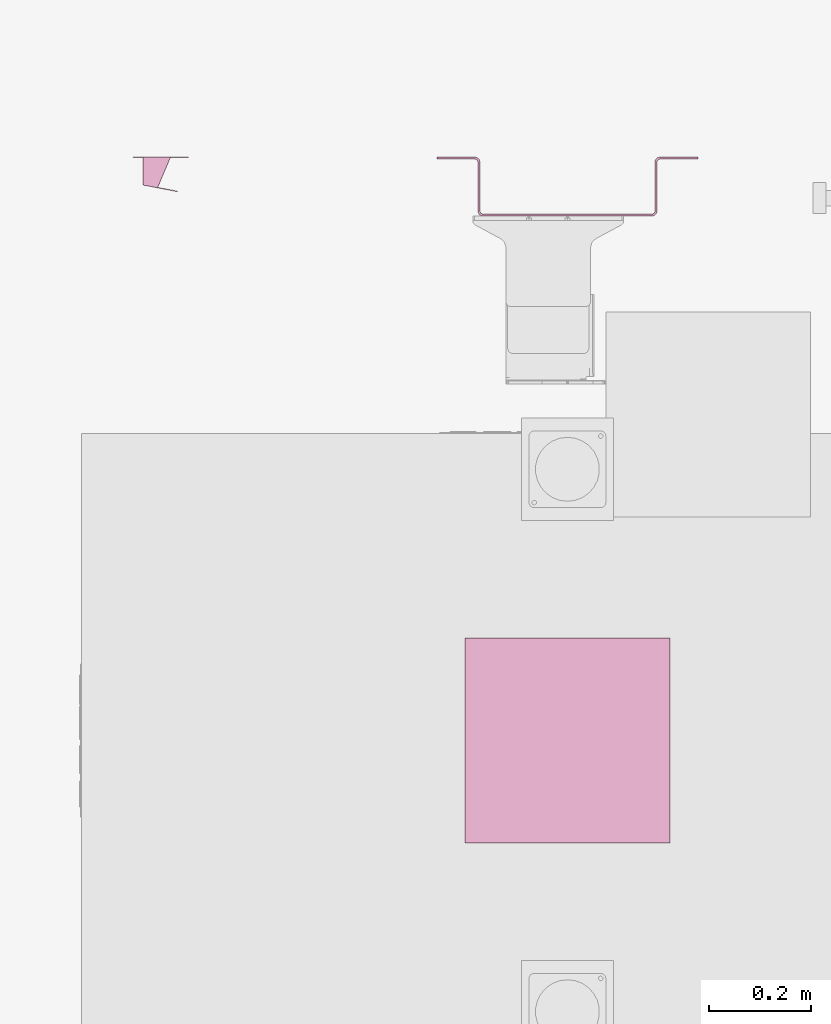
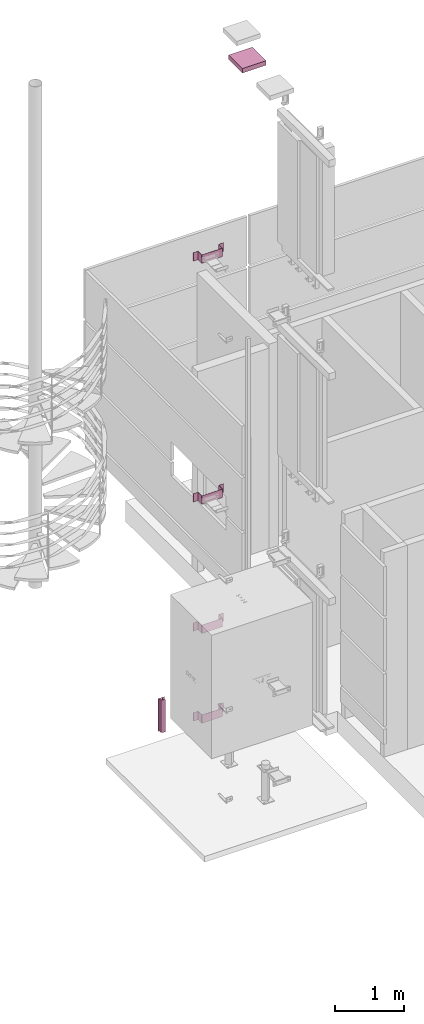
# One storey, part 14 of 15: 6 transport elements.
"""IFC2X3 building model written with IfcOpenShell, lengths in millimetres."""

from ifc_helpers import new_model, entity, si_unit, converted_unit, derived_unit, direction, frame, frame_2d, origin, place, context, subcontext, project, spatial, polyline, circle_curve, parameter, trimmed, segment, composite_curve, outline, extrude, faceted_brep, source, transform, mapped, material, material_list, type_object, type_shapes, element, save


model = new_model("IFC2X3")

# Units and contexts
model_context = context("Model", 3, precision=0.01, world=origin(), true_north=direction((6.12303176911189e-17, 1.0)))
body_context = subcontext(model_context, "Body", "Model", "MODEL_VIEW")
ifc_project = project(units=[si_unit("LENGTHUNIT", "METRE", prefix="MILLI"), si_unit("AREAUNIT", "SQUARE_METRE"), si_unit("VOLUMEUNIT", "CUBIC_METRE"), converted_unit("PLANEANGLEUNIT", "DEGREE", entity("IfcRatioMeasure", 0.0174532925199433), si_unit("PLANEANGLEUNIT", "RADIAN"), dimensions=[0, 0, 0, 0, 0, 0, 0]), si_unit("MASSUNIT", "GRAM", prefix="KILO"), derived_unit("MASSDENSITYUNIT", [(si_unit("MASSUNIT", "GRAM", prefix="KILO"), 1), (si_unit("LENGTHUNIT", "METRE"), -3)]), si_unit("TIMEUNIT", "SECOND"), si_unit("FREQUENCYUNIT", "HERTZ"), si_unit("THERMODYNAMICTEMPERATUREUNIT", "DEGREE_CELSIUS"), derived_unit("THERMALTRANSMITTANCEUNIT", [(si_unit("MASSUNIT", "GRAM", prefix="KILO"), 1), (si_unit("THERMODYNAMICTEMPERATUREUNIT", "KELVIN"), -1), (si_unit("TIMEUNIT", "SECOND"), -3)]), derived_unit("VOLUMETRICFLOWRATEUNIT", [(si_unit("LENGTHUNIT", "METRE"), 3), (si_unit("TIMEUNIT", "SECOND"), -1)]), si_unit("ELECTRICCURRENTUNIT", "AMPERE"), si_unit("ELECTRICVOLTAGEUNIT", "VOLT"), si_unit("POWERUNIT", "WATT"), si_unit("FORCEUNIT", "NEWTON", prefix="KILO"), si_unit("ILLUMINANCEUNIT", "LUX"), si_unit("LUMINOUSFLUXUNIT", "LUMEN"), si_unit("LUMINOUSINTENSITYUNIT", "CANDELA"), derived_unit("USERDEFINED", [(si_unit("MASSUNIT", "GRAM", prefix="KILO"), -1), (si_unit("LENGTHUNIT", "METRE"), -2), (si_unit("TIMEUNIT", "SECOND"), 3), (si_unit("LUMINOUSFLUXUNIT", "LUMEN"), 1)]), derived_unit("LINEARVELOCITYUNIT", [(si_unit("LENGTHUNIT", "METRE"), 1), (si_unit("TIMEUNIT", "SECOND"), -1)]), si_unit("PRESSUREUNIT", "PASCAL"), derived_unit("USERDEFINED", [(si_unit("LENGTHUNIT", "METRE"), -2), (si_unit("MASSUNIT", "GRAM", prefix="KILO"), 1), (si_unit("TIMEUNIT", "SECOND"), -2)])], contexts=[model_context])

# Site, building, storey
site_placement = place(None, frame((-151.875543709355, 2715.0, 0.0)))
site = spatial("IfcSite", under=ifc_project, at=site_placement, Name="Surface", CompositionType="ELEMENT")
building_placement = place(site_placement, origin())
building = spatial("IfcBuilding", under=site, at=building_placement, CompositionType="ELEMENT")
storey_placement = place(building_placement, frame((0.0, 0.0, -135.0)))
storey = spatial("IfcBuildingStorey", under=building, at=storey_placement, Name="uus 1 korrus", CompositionType="ELEMENT", Elevation=-134.99999999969)

# Transport elements
ifc_material_1 = material(Name="Site specified")
transport_element_type_1 = type_object("IfcTransportElementType", Name="KONE_Shaft_Light", material=ifc_material_1)
shared_shape_1 = source(origin(), body_context, "Body", "SweptSolid", [
    extrude(outline(polyline([(-54.9929194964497, -25.1750137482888), (53.0070805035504, -25.1750137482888), (53.0070805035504, -24.1750137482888), (18.0070805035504, -24.1750137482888), (-6.65036389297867, 33.9142849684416), (32.1937198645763, 41.4648099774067), (32.0070805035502, 42.4249862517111), (-35.7929194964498, 29.2460012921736), (-35.7929194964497, -24.1750137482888), (-54.9929194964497, -24.1750137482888), (-54.9929194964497, -25.1750137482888)])), frame((-160.631399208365, 19.0986245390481, -25.175013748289), z_axis=(1.0, 0.0, 0.0), x_axis=(0.0, -1.0, 0.0)), (0.0, 0.0, 1.0), 580.0),
])
type_shapes(transport_element_type_1, [shared_shape_1])
transport_element_1_placement = place(storey_placement, frame((29981.7093111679, 21740.0, -180.631399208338), z_axis=(0.0, 1.0, 0.0), x_axis=(0.0, 0.0, -1.0)))
element("IfcTransportElement", 1, at=transport_element_1_placement, inside=storey, type_object=transport_element_type_1, material=ifc_material_1, Name="KONE_Shaft_Light:KONE_Shaft_Light", ObjectType="KONE_Shaft_Light", CapacityByNumber=0.0, CapacityByWeight=0.0, OperationType="ELEVATOR", context=body_context, shape_type="MappedRepresentation", body=[
    mapped(shared_shape_1, transform((0.0, 0.0, 0.0), scale=1.0)),
])
ifc_material_2 = material(Name="Generic")
transport_element_type_2 = type_object("IfcTransportElementType", Name="KONE_Car_Bracket_Extension_KM755828G01_L115", material=ifc_material_2)
shared_shape_2 = source(origin(), body_context, "Body", "SweptSolid", [
    extrude(outline(composite_curve([segment(polyline([(-42.4000000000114, 181.0), (-42.4000000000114, 255.0)]), True, "CONTINUOUS"), segment(polyline([(-42.4000000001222, 255.0), (-46.4000000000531, 255.0)]), True, "CONTINUOUS"), segment(polyline([(-46.3999999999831, 255.0), (-46.3999999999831, 181.0)]), True, "CONTINUOUS"), segment(trimmed(circle_curve(frame_2d((-36.3999999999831, 181.0), x_axis=(-1.0, 0.0)), 10.0), [parameter(0.0)], [parameter(90.0000000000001)], True, "PARAMETER"), True, "CONTINUOUS"), segment(polyline([(-36.3999999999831, 171.0), (58.5999999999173, 171.0)]), True, "CONTINUOUS"), segment(trimmed(circle_curve(frame_2d((58.5999999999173, 165.0), x_axis=(-1.0, 0.0)), 6.0), [parameter(180.0)], [parameter(269.999999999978)], True, "PARAMETER"), False, "CONTINUOUS"), segment(polyline([(64.5999999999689, 165.0), (64.599999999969, -165.0)]), True, "CONTINUOUS"), segment(trimmed(circle_curve(frame_2d((58.5999999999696, -165.0), x_axis=(0.0, 1.0)), 6.0), [parameter(180.0)], [parameter(270.000000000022)], True, "PARAMETER"), False, "CONTINUOUS"), segment(polyline([(58.5999999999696, -171.0), (-36.3999999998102, -171.0)]), True, "CONTINUOUS"), segment(trimmed(circle_curve(frame_2d((-36.3999999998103, -181.0), x_axis=(0.0, 1.0)), 10.0), [parameter(0.0)], [parameter(90.0000000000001)], True, "PARAMETER"), True, "CONTINUOUS"), segment(polyline([(-46.3999999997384, -181.0), (-46.3999999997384, -255.0)]), True, "CONTINUOUS"), segment(polyline([(-46.3999999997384, -255.0), (-42.3999999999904, -255.0)]), True, "CONTINUOUS"), segment(polyline([(-42.4000000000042, -255.0), (-42.4000000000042, -181.0)]), True, "CONTINUOUS"), segment(trimmed(circle_curve(frame_2d((-36.4000000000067, -181.0), x_axis=(0.0, -1.0)), 6.0), [parameter(180.0)], [parameter(270.0)], True, "PARAMETER"), False, "CONTINUOUS"), segment(polyline([(-36.4000000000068, -175.0), (58.5999999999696, -175.0)]), True, "CONTINUOUS"), segment(trimmed(circle_curve(frame_2d((58.5999999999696, -165.0), x_axis=(0.0, -1.0)), 10.0), [parameter(0.0)], [parameter(90.0000000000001)], True, "PARAMETER"), True, "CONTINUOUS"), segment(polyline([(68.5999999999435, -165.0), (68.5999999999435, 165.0)]), True, "CONTINUOUS"), segment(trimmed(circle_curve(frame_2d((58.5999999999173, 165.0), x_axis=(1.0, 0.0)), 10.0), [parameter(0.0)], [parameter(90.0000000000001)], True, "PARAMETER"), True, "CONTINUOUS"), segment(polyline([(58.5999999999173, 175.0), (-36.4000000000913, 175.0)]), True, "CONTINUOUS"), segment(trimmed(circle_curve(frame_2d((-36.4000000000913, 181.0), x_axis=(1.0, 0.0)), 6.0), [parameter(180.0)], [parameter(270.0)], True, "PARAMETER"), False, "CONTINUOUS")], self_intersect=False)), frame((148.391689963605, -34.4186219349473, -46.4000000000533), z_axis=(0.0, -1.0, 0.0), x_axis=(0.0, 0.0, -1.0)), (0.0, 0.0, -1.0), 150.0),
])
type_shapes(transport_element_type_2, [shared_shape_2])
transport_element_2_placement = place(storey_placement, frame((30608.2260771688, 21740.0, -510.418604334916), z_axis=(0.0, 1.0, 0.0), x_axis=(1.0, 0.0, 0.0)))
element("IfcTransportElement", 2, at=transport_element_2_placement, inside=storey, type_object=transport_element_type_2, material=ifc_material_2, Name="KONE_Car_Bracket_Extension_KM755828G01_L115:KONE_Car_Bracket_Extension_KM755828G01_L115", ObjectType="KONE_Car_Bracket_Extension_KM755828G01_L115", CapacityByNumber=0.0, CapacityByWeight=0.0, OperationType="ELEVATOR", context=body_context, shape_type="MappedRepresentation", body=[
    mapped(shared_shape_2, transform((0.0, 0.0, 0.0), scale=1.0)),
])

# Space
space_placement = place(storey_placement, origin())
space = spatial("IfcSpace", under=storey, at=space_placement, Name="132a", CompositionType="ELEMENT", InteriorOrExteriorSpace="INTERNAL")

# Transport elements
transport_element_type_3 = type_object("IfcTransportElementType", Name="KONE_Car_Bracket_Extension_KM755828G01_L115", material=ifc_material_2)
shared_shape_3 = source(origin(), body_context, "Body", "SweptSolid", [
    extrude(outline(composite_curve([segment(polyline([(-42.4000000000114, 181.0), (-42.4000000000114, 255.0)]), True, "CONTINUOUS"), segment(polyline([(-42.4000000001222, 255.0), (-46.4000000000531, 255.0)]), True, "CONTINUOUS"), segment(polyline([(-46.3999999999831, 255.0), (-46.3999999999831, 181.0)]), True, "CONTINUOUS"), segment(trimmed(circle_curve(frame_2d((-36.3999999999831, 181.0), x_axis=(-1.0, 0.0)), 10.0), [parameter(0.0)], [parameter(90.0000000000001)], True, "PARAMETER"), True, "CONTINUOUS"), segment(polyline([(-36.3999999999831, 171.0), (58.5999999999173, 171.0)]), True, "CONTINUOUS"), segment(trimmed(circle_curve(frame_2d((58.5999999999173, 165.0), x_axis=(-1.0, 0.0)), 6.0), [parameter(180.0)], [parameter(269.999999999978)], True, "PARAMETER"), False, "CONTINUOUS"), segment(polyline([(64.5999999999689, 165.0), (64.599999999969, -165.0)]), True, "CONTINUOUS"), segment(trimmed(circle_curve(frame_2d((58.5999999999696, -165.0), x_axis=(0.0, 1.0)), 6.0), [parameter(180.0)], [parameter(270.000000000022)], True, "PARAMETER"), False, "CONTINUOUS"), segment(polyline([(58.5999999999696, -171.0), (-36.3999999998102, -171.0)]), True, "CONTINUOUS"), segment(trimmed(circle_curve(frame_2d((-36.3999999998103, -181.0), x_axis=(0.0, 1.0)), 10.0), [parameter(0.0)], [parameter(90.0000000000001)], True, "PARAMETER"), True, "CONTINUOUS"), segment(polyline([(-46.3999999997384, -181.0), (-46.3999999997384, -255.0)]), True, "CONTINUOUS"), segment(polyline([(-46.3999999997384, -255.0), (-42.3999999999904, -255.0)]), True, "CONTINUOUS"), segment(polyline([(-42.4000000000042, -255.0), (-42.4000000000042, -181.0)]), True, "CONTINUOUS"), segment(trimmed(circle_curve(frame_2d((-36.4000000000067, -181.0), x_axis=(0.0, -1.0)), 6.0), [parameter(180.0)], [parameter(270.0)], True, "PARAMETER"), False, "CONTINUOUS"), segment(polyline([(-36.4000000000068, -175.0), (58.5999999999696, -175.0)]), True, "CONTINUOUS"), segment(trimmed(circle_curve(frame_2d((58.5999999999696, -165.0), x_axis=(0.0, -1.0)), 10.0), [parameter(0.0)], [parameter(90.0000000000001)], True, "PARAMETER"), True, "CONTINUOUS"), segment(polyline([(68.5999999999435, -165.0), (68.5999999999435, 165.0)]), True, "CONTINUOUS"), segment(trimmed(circle_curve(frame_2d((58.5999999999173, 165.0), x_axis=(1.0, 0.0)), 10.0), [parameter(0.0)], [parameter(90.0000000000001)], True, "PARAMETER"), True, "CONTINUOUS"), segment(polyline([(58.5999999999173, 175.0), (-36.4000000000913, 175.0)]), True, "CONTINUOUS"), segment(trimmed(circle_curve(frame_2d((-36.4000000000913, 181.0), x_axis=(1.0, 0.0)), 6.0), [parameter(180.0)], [parameter(270.0)], True, "PARAMETER"), False, "CONTINUOUS")], self_intersect=False)), frame((148.391689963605, -34.4186219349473, -46.4000000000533), z_axis=(0.0, -1.0, 0.0), x_axis=(0.0, 0.0, -1.0)), (0.0, 0.0, -1.0), 150.0),
])
type_shapes(transport_element_type_3, [shared_shape_3])
transport_element_3_placement = place(space_placement, frame((30608.2260771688, 21740.0, 1089.58144686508), z_axis=(0.0, 1.0, 0.0), x_axis=(1.0, 0.0, 0.0)))
element("IfcTransportElement", 3, at=transport_element_3_placement, inside=space, type_object=transport_element_type_3, material=ifc_material_2, Name="KONE_Car_Bracket_Extension_KM755828G01_L115:KONE_Car_Bracket_Extension_KM755828G01_L115", ObjectType="KONE_Car_Bracket_Extension_KM755828G01_L115", CapacityByNumber=0.0, CapacityByWeight=0.0, OperationType="ELEVATOR", context=body_context, shape_type="MappedRepresentation", body=[
    mapped(shared_shape_3, transform((0.0, 0.0, 0.0), scale=1.0)),
])
transport_element_type_4 = type_object("IfcTransportElementType", Name="KONE_Car_Bracket_Extension_KM755828G01_L115", material=ifc_material_2)
shared_shape_4 = source(origin(), body_context, "Body", "SweptSolid", [
    extrude(outline(composite_curve([segment(polyline([(-42.4000000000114, 181.0), (-42.4000000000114, 255.0)]), True, "CONTINUOUS"), segment(polyline([(-42.4000000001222, 255.0), (-46.4000000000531, 255.0)]), True, "CONTINUOUS"), segment(polyline([(-46.3999999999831, 255.0), (-46.3999999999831, 181.0)]), True, "CONTINUOUS"), segment(trimmed(circle_curve(frame_2d((-36.3999999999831, 181.0), x_axis=(-1.0, 0.0)), 10.0), [parameter(0.0)], [parameter(90.0000000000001)], True, "PARAMETER"), True, "CONTINUOUS"), segment(polyline([(-36.3999999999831, 171.0), (58.5999999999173, 171.0)]), True, "CONTINUOUS"), segment(trimmed(circle_curve(frame_2d((58.5999999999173, 165.0), x_axis=(-1.0, 0.0)), 6.0), [parameter(180.0)], [parameter(269.999999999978)], True, "PARAMETER"), False, "CONTINUOUS"), segment(polyline([(64.5999999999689, 165.0), (64.599999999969, -165.0)]), True, "CONTINUOUS"), segment(trimmed(circle_curve(frame_2d((58.5999999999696, -165.0), x_axis=(0.0, 1.0)), 6.0), [parameter(180.0)], [parameter(270.000000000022)], True, "PARAMETER"), False, "CONTINUOUS"), segment(polyline([(58.5999999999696, -171.0), (-36.3999999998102, -171.0)]), True, "CONTINUOUS"), segment(trimmed(circle_curve(frame_2d((-36.3999999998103, -181.0), x_axis=(0.0, 1.0)), 10.0), [parameter(0.0)], [parameter(90.0000000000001)], True, "PARAMETER"), True, "CONTINUOUS"), segment(polyline([(-46.3999999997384, -181.0), (-46.3999999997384, -255.0)]), True, "CONTINUOUS"), segment(polyline([(-46.3999999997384, -255.0), (-42.3999999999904, -255.0)]), True, "CONTINUOUS"), segment(polyline([(-42.4000000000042, -255.0), (-42.4000000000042, -181.0)]), True, "CONTINUOUS"), segment(trimmed(circle_curve(frame_2d((-36.4000000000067, -181.0), x_axis=(0.0, -1.0)), 6.0), [parameter(180.0)], [parameter(270.0)], True, "PARAMETER"), False, "CONTINUOUS"), segment(polyline([(-36.4000000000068, -175.0), (58.5999999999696, -175.0)]), True, "CONTINUOUS"), segment(trimmed(circle_curve(frame_2d((58.5999999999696, -165.0), x_axis=(0.0, -1.0)), 10.0), [parameter(0.0)], [parameter(90.0000000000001)], True, "PARAMETER"), True, "CONTINUOUS"), segment(polyline([(68.5999999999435, -165.0), (68.5999999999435, 165.0)]), True, "CONTINUOUS"), segment(trimmed(circle_curve(frame_2d((58.5999999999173, 165.0), x_axis=(1.0, 0.0)), 10.0), [parameter(0.0)], [parameter(90.0000000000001)], True, "PARAMETER"), True, "CONTINUOUS"), segment(polyline([(58.5999999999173, 175.0), (-36.4000000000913, 175.0)]), True, "CONTINUOUS"), segment(trimmed(circle_curve(frame_2d((-36.4000000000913, 181.0), x_axis=(1.0, 0.0)), 6.0), [parameter(180.0)], [parameter(270.0)], True, "PARAMETER"), False, "CONTINUOUS")], self_intersect=False)), frame((148.391689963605, -34.4186219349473, -46.4000000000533), z_axis=(0.0, -1.0, 0.0), x_axis=(0.0, 0.0, -1.0)), (0.0, 0.0, -1.0), 150.0),
])
type_shapes(transport_element_type_4, [shared_shape_4])
transport_element_4_placement = place(storey_placement, frame((30608.2260771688, 21740.0, 3389.58152046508), z_axis=(0.0, 1.0, 0.0), x_axis=(1.0, 0.0, 0.0)))
element("IfcTransportElement", 4, at=transport_element_4_placement, inside=storey, type_object=transport_element_type_4, material=ifc_material_2, Name="KONE_Car_Bracket_Extension_KM755828G01_L115:KONE_Car_Bracket_Extension_KM755828G01_L115", ObjectType="KONE_Car_Bracket_Extension_KM755828G01_L115", CapacityByNumber=0.0, CapacityByWeight=0.0, OperationType="ELEVATOR", context=body_context, shape_type="MappedRepresentation", body=[
    mapped(shared_shape_4, transform((0.0, 0.0, 0.0), scale=1.0)),
])
transport_element_type_5 = type_object("IfcTransportElementType", Name="KONE_Car_Bracket_Extension_KM755828G01_L115", material=ifc_material_2)
shared_shape_5 = source(origin(), body_context, "Body", "SweptSolid", [
    extrude(outline(composite_curve([segment(polyline([(-42.4000000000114, 181.0), (-42.4000000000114, 255.0)]), True, "CONTINUOUS"), segment(polyline([(-42.4000000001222, 255.0), (-46.4000000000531, 255.0)]), True, "CONTINUOUS"), segment(polyline([(-46.3999999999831, 255.0), (-46.3999999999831, 181.0)]), True, "CONTINUOUS"), segment(trimmed(circle_curve(frame_2d((-36.3999999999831, 181.0), x_axis=(-1.0, 0.0)), 10.0), [parameter(0.0)], [parameter(90.0000000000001)], True, "PARAMETER"), True, "CONTINUOUS"), segment(polyline([(-36.3999999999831, 171.0), (58.5999999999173, 171.0)]), True, "CONTINUOUS"), segment(trimmed(circle_curve(frame_2d((58.5999999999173, 165.0), x_axis=(-1.0, 0.0)), 6.0), [parameter(180.0)], [parameter(269.999999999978)], True, "PARAMETER"), False, "CONTINUOUS"), segment(polyline([(64.5999999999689, 165.0), (64.599999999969, -165.0)]), True, "CONTINUOUS"), segment(trimmed(circle_curve(frame_2d((58.5999999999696, -165.0), x_axis=(0.0, 1.0)), 6.0), [parameter(180.0)], [parameter(270.000000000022)], True, "PARAMETER"), False, "CONTINUOUS"), segment(polyline([(58.5999999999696, -171.0), (-36.3999999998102, -171.0)]), True, "CONTINUOUS"), segment(trimmed(circle_curve(frame_2d((-36.3999999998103, -181.0), x_axis=(0.0, 1.0)), 10.0), [parameter(0.0)], [parameter(90.0000000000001)], True, "PARAMETER"), True, "CONTINUOUS"), segment(polyline([(-46.3999999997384, -181.0), (-46.3999999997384, -255.0)]), True, "CONTINUOUS"), segment(polyline([(-46.3999999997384, -255.0), (-42.3999999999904, -255.0)]), True, "CONTINUOUS"), segment(polyline([(-42.4000000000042, -255.0), (-42.4000000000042, -181.0)]), True, "CONTINUOUS"), segment(trimmed(circle_curve(frame_2d((-36.4000000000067, -181.0), x_axis=(0.0, -1.0)), 6.0), [parameter(180.0)], [parameter(270.0)], True, "PARAMETER"), False, "CONTINUOUS"), segment(polyline([(-36.4000000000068, -175.0), (58.5999999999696, -175.0)]), True, "CONTINUOUS"), segment(trimmed(circle_curve(frame_2d((58.5999999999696, -165.0), x_axis=(0.0, -1.0)), 10.0), [parameter(0.0)], [parameter(90.0000000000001)], True, "PARAMETER"), True, "CONTINUOUS"), segment(polyline([(68.5999999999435, -165.0), (68.5999999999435, 165.0)]), True, "CONTINUOUS"), segment(trimmed(circle_curve(frame_2d((58.5999999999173, 165.0), x_axis=(1.0, 0.0)), 10.0), [parameter(0.0)], [parameter(90.0000000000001)], True, "PARAMETER"), True, "CONTINUOUS"), segment(polyline([(58.5999999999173, 175.0), (-36.4000000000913, 175.0)]), True, "CONTINUOUS"), segment(trimmed(circle_curve(frame_2d((-36.4000000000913, 181.0), x_axis=(1.0, 0.0)), 6.0), [parameter(180.0)], [parameter(270.0)], True, "PARAMETER"), False, "CONTINUOUS")], self_intersect=False)), frame((148.391689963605, -34.4186219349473, -46.4000000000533), z_axis=(0.0, -1.0, 0.0), x_axis=(0.0, 0.0, -1.0)), (0.0, 0.0, -1.0), 150.0),
])
type_shapes(transport_element_type_5, [shared_shape_5])
transport_element_5_placement = place(storey_placement, frame((30608.2260771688, 21740.0, 7679.58165774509), z_axis=(0.0, 1.0, 0.0), x_axis=(1.0, 0.0, 0.0)))
element("IfcTransportElement", 5, at=transport_element_5_placement, inside=storey, type_object=transport_element_type_5, material=ifc_material_2, Name="KONE_Car_Bracket_Extension_KM755828G01_L115:KONE_Car_Bracket_Extension_KM755828G01_L115", ObjectType="KONE_Car_Bracket_Extension_KM755828G01_L115", CapacityByNumber=0.0, CapacityByWeight=0.0, OperationType="ELEVATOR", context=body_context, shape_type="MappedRepresentation", body=[
    mapped(shared_shape_5, transform((0.0, 0.0, 0.0), scale=1.0)),
])
ifc_material_3 = material(Name="Void")
ifc_material_list_1 = material_list([ifc_material_1, ifc_material_3])
ifc_material_list_2 = material_list([ifc_material_1, ifc_material_3])
transport_element_type_6 = type_object("IfcTransportElementType", Name="KONE_Hook_Embedded", material=ifc_material_list_2)
shared_shape_6 = source(origin(), body_context, "Body", "Brep", [
    faceted_brep([(175.0, 200.0, 81.595272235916), (170.750000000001, 207.361215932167, 81.595272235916), (162.250000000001, 207.361215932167, 81.595272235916), (158.0, 200.0, 81.595272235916), (162.250000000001, 192.638784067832, 81.595272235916), (170.750000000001, 192.638784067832, 81.595272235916), (242.0, 200.0, 81.595272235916), (237.750000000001, 207.361215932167, 81.595272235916), (229.250000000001, 207.361215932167, 81.595272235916), (225.0, 200.0, 81.595272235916), (229.250000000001, 192.638784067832, 81.595272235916), (237.750000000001, 192.638784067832, 81.595272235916), (158.0, 200.0, 43.5952722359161), (160.673921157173, 195.368632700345, 43.5952722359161), (162.250000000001, 192.638784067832, 43.5952722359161), (166.500000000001, 192.638784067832, 43.5952722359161), (170.750000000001, 192.638784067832, 43.5952722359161), (229.250000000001, 192.638784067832, 43.5952722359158), (233.500000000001, 192.638784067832, 43.5952722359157), (237.750000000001, 192.638784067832, 43.5952722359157), (175.0, 200.0, 43.5952722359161), (170.750000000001, 207.361215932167, 43.5952722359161), (166.500000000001, 207.361215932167, 43.5952722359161), (162.250000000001, 207.361215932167, 43.5952722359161), (237.750000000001, 207.361215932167, 43.5952722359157), (233.500000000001, 207.361215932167, 43.5952722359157), (229.250000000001, 207.361215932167, 43.5952722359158), (161.461960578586, 205.996291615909, 43.5952722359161), (160.673921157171, 204.631367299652, 43.5952722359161), (162.739280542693, 200.0, 38.8559916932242), (165.108920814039, 200.0, 36.4863514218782), (167.478561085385, 200.0, 34.1167111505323), (164.274666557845, 192.556890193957, 31.8552444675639), (170.151341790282, 191.500751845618, 28.6371345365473), (218.514717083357, 193.495922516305, 9.30165926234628), (213.964839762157, 191.53367043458, 13.9783078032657), (211.717232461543, 193.586955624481, 6.31447236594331), (182.717841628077, 200.0, 18.8774306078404), (188.478561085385, 200.0, 13.1167111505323), (178.921209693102, 191.513444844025, 16.9460358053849), (227.782158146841, 200.0, 29.3774303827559), (232.521438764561, 200.0, 34.1167110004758), (235.725333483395, 192.55689021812, 31.8552444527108), (239.630359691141, 200.0, 41.2256319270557), (242.0, 200.0, 43.5952722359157), (240.663039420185, 197.68431634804, 43.5952722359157), (239.326078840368, 195.368632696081, 43.5952722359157), (237.260719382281, 200.0, 38.8559916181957), (234.129638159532, 194.095774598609, 23.4831882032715), (229.848658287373, 191.500751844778, 28.6371345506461), (225.0, 200.0, 43.5952722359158), (184.304413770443, 193.153733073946, 19.8518537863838), (187.955931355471, 200.0, 25.7629625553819), (183.637287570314, 200.0, 31.7070657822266), (184.198477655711, 191.759817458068, 11.7104625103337), (190.646718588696, 191.699041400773, 9.52722177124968), (220.909321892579, 200.0, 40.6232206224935), (224.734621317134, 191.827204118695, 24.6370744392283), (224.197115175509, 193.596445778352, 12.8950687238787), (211.521438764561, 200.0, 13.116711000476), (176.957122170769, 200.0, 24.6381500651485), (170.677751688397, 193.693589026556, 17.5804429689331), (219.982084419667, 191.517649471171, 17.3925019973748), (212.727965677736, 200.0, 34.6791173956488), (208.637287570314, 200.0, 31.7070657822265), (223.042877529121, 200.0, 24.638149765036), (229.322248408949, 193.69358909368, 17.5804429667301), (217.282158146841, 200.0, 18.877430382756), (207.423162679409, 191.504140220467, 11.2001471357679), (198.980548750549, 191.52232621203, 10.7267461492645), (193.848726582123, 193.221652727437, 15.8988818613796), (204.536350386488, 194.198533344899, 4.14289208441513), (197.961082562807, 193.870239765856, 4.25944253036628), (200.0, 200.0, 1.59527223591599), (179.350014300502, 193.724015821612, 25.0316010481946), (166.795276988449, 194.00747954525, 22.1493340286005), (174.843148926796, 191.718097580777, 24.4938908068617), (194.239280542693, 200.0, 7.35599169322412), (179.318643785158, 200.0, 37.6511690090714), (204.546609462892, 200.0, 28.7350141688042), (200.455931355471, 200.0, 25.7629625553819), (172.217841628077, 200.0, 29.3774306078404), (216.818643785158, 200.0, 37.6511690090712), (205.760719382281, 200.0, 7.35599161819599), (196.365253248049, 200.0, 22.7909109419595), (192.274575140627, 200.0, 19.8188593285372), (170.15134179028, 208.499248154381, 28.6371345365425), (164.274666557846, 207.443109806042, 31.8552444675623), (166.795276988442, 205.992520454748, 22.1493340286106), (224.734621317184, 208.172795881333, 24.6370744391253), (213.964839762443, 208.466329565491, 13.9783078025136), (219.98208441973, 208.482350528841, 17.3925019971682), (218.514717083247, 206.504077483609, 9.3016592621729), (170.677751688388, 206.306410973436, 17.5804429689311), (178.92120969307, 208.486555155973, 16.9460358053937), (179.350014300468, 206.275984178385, 25.0316010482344), (184.304413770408, 206.846266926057, 19.8518537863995), (229.848658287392, 208.499248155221, 28.6371345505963), (235.725333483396, 207.443109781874, 31.8552444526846), (184.198477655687, 208.240182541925, 11.7104625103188), (229.322248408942, 206.306410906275, 17.5804429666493), (174.843148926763, 208.281902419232, 24.493890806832), (240.663039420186, 202.315683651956, 43.5952722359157), (239.32607884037, 204.631367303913, 43.5952722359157), (224.197115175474, 206.403554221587, 12.8950687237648), (234.129638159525, 205.904225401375, 23.4831882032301), (212.039670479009, 206.30567904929, 6.29010621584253), (198.756972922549, 205.994010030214, 4.08806162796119), (204.959766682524, 205.729975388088, 4.12736168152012), (199.025537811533, 208.499563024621, 10.1956727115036), (207.423162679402, 208.495859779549, 11.2001471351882), (194.117591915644, 206.800041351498, 15.8110967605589), (190.646718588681, 208.300958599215, 9.52722177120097)], [[[0, 1, 2, 3, 4, 5]], [[6, 7, 8, 9, 10, 11]], [[3, 12, 13, 14, 4]], [[4, 14, 15, 16, 5]], [[11, 10, 17, 18, 19]], [[16, 20, 0, 5]], [[20, 21, 1, 0]], [[1, 21, 22, 23, 2]], [[8, 7, 24, 25, 26]], [[2, 23, 27, 28, 12, 3]], [[13, 12, 29, 30, 31, 14]], [[15, 31, 32]], [[33, 20, 16]], [[31, 15, 14]], [[32, 16, 15]], [[34, 35, 36]], [[37, 38, 39]], [[40, 41, 42]], [[43, 44, 45, 46, 19, 41, 47]], [[40, 42, 48]], [[17, 49, 42]], [[17, 50, 49]], [[51, 52, 53]], [[54, 55, 51]], [[54, 51, 39]], [[49, 56, 57]], [[58, 34, 59]], [[60, 37, 61]], [[62, 58, 57]], [[62, 63, 64]], [[65, 66, 67]], [[68, 36, 35]], [[66, 65, 48]], [[69, 70, 55]], [[71, 72, 73]], [[74, 51, 53]], [[33, 75, 61]], [[61, 76, 33]], [[55, 77, 72]], [[71, 69, 72]], [[37, 39, 61]], [[76, 61, 39]], [[39, 74, 76]], [[78, 76, 74]], [[70, 52, 51]], [[20, 33, 78]], [[74, 39, 51]], [[74, 53, 78]], [[33, 76, 78]], [[51, 55, 70]], [[39, 38, 54]], [[79, 80, 68]], [[61, 75, 60]], [[31, 81, 32]], [[75, 81, 60]], [[33, 16, 32]], [[41, 19, 18]], [[42, 41, 18]], [[42, 18, 17]], [[48, 42, 49]], [[59, 67, 58]], [[57, 66, 49]], [[58, 67, 66]], [[57, 56, 82, 63]], [[57, 58, 66]], [[58, 62, 34]], [[35, 34, 62]], [[83, 36, 71]], [[57, 63, 62]], [[34, 36, 59]], [[35, 64, 79]], [[71, 36, 68]], [[36, 83, 59]], [[71, 68, 69]], [[83, 71, 73]], [[68, 80, 69]], [[69, 84, 70]], [[69, 55, 72]], [[38, 77, 54]], [[55, 54, 77]], [[77, 73, 72]], [[70, 85, 52]], [[84, 69, 80]], [[84, 85, 70]], [[62, 64, 35]], [[33, 32, 75]], [[81, 75, 32]], [[35, 79, 68]], [[66, 48, 49]], [[40, 48, 65]], [[56, 49, 50]], [[21, 86, 87]], [[81, 87, 88]], [[20, 86, 21]], [[63, 82, 56, 89]], [[90, 91, 92]], [[27, 23, 31, 30, 29, 12, 28]], [[88, 93, 60]], [[37, 94, 38]], [[24, 41, 25]], [[95, 53, 96]], [[97, 50, 26]], [[25, 41, 98]], [[81, 31, 87]], [[98, 26, 25]], [[99, 94, 96]], [[100, 89, 97]], [[101, 78, 95]], [[102, 44, 43, 47, 41, 24, 103]], [[67, 104, 100]], [[100, 97, 105]], [[92, 91, 104]], [[89, 56, 97]], [[106, 59, 83]], [[107, 108, 73]], [[109, 110, 108]], [[93, 101, 94]], [[93, 37, 60]], [[111, 96, 52]], [[105, 97, 98]], [[112, 77, 99]], [[101, 93, 86]], [[94, 37, 93]], [[111, 52, 85]], [[95, 94, 101]], [[20, 78, 86]], [[95, 96, 94]], [[53, 52, 96]], [[101, 86, 78]], [[78, 53, 95]], [[99, 96, 112]], [[107, 77, 112]], [[38, 94, 99]], [[109, 111, 84]], [[110, 80, 79]], [[41, 40, 98]], [[105, 40, 65]], [[97, 26, 98]], [[31, 23, 22]], [[87, 31, 22]], [[87, 22, 21]], [[88, 86, 93]], [[59, 92, 104]], [[65, 67, 100]], [[100, 104, 89]], [[91, 64, 63]], [[56, 50, 97]], [[59, 104, 67]], [[89, 104, 91]], [[106, 90, 92]], [[106, 92, 59]], [[40, 105, 98]], [[110, 106, 108]], [[91, 90, 64]], [[108, 106, 83]], [[110, 90, 106]], [[83, 73, 108]], [[108, 107, 109]], [[111, 109, 112]], [[80, 110, 109]], [[96, 111, 112]], [[84, 80, 109]], [[111, 85, 84]], [[81, 88, 60]], [[112, 109, 107]], [[63, 89, 91]], [[77, 107, 73]], [[38, 99, 77]], [[87, 86, 88]], [[79, 90, 110]], [[79, 64, 90]], [[100, 105, 65]], [[6, 11, 19, 46, 45, 44]], [[10, 9, 50, 17]], [[9, 8, 26, 50]], [[7, 6, 44, 102, 103, 24]]]),
    faceted_brep([(0.0, 400.0, 81.595272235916), (0.0, 0.0, 81.595272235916), (400.0, 0.0, 81.595272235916), (400.0, 400.0, 81.595272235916), (0.0, 400.0, 1.595272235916), (400.0, 400.0, 1.595272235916), (400.0, 0.0, 1.595272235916), (0.0, 0.0, 1.595272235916)], [[[0, 1, 2, 3]], [[4, 5, 6, 7]], [[1, 0, 4, 7]], [[2, 1, 7, 6]], [[3, 2, 6, 5]], [[0, 3, 5, 4]]]),
])
type_shapes(transport_element_type_6, [shared_shape_6])
transport_element_6_placement = place(storey_placement, frame((30956.6177671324, 20400.0, 11703.4047277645), z_axis=(0.0, 0.0, 1.0), x_axis=(0.0, 1.0, 0.0)))
element("IfcTransportElement", 6, at=transport_element_6_placement, inside=storey, type_object=transport_element_type_6, material=ifc_material_list_1, Name="KONE_Hook_Embedded:KONE_Hook_Embedded", ObjectType="KONE_Hook_Embedded", CapacityByNumber=0.0, CapacityByWeight=0.0, OperationType="ELEVATOR", context=body_context, shape_type="MappedRepresentation", body=[
    mapped(shared_shape_6, transform((0.0, 0.0, 0.0), scale=1.0)),
])

save(model, "model.ifc")
